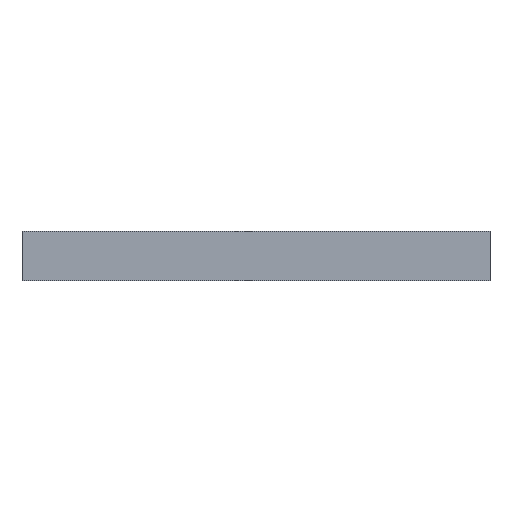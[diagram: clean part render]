
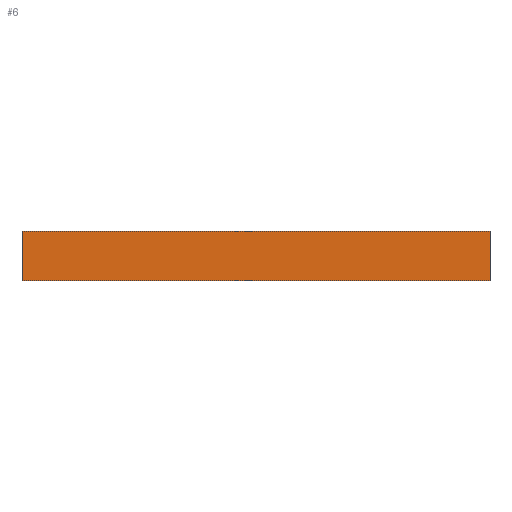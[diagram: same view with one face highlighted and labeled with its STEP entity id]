
A CAD part, top view. The second image highlights one B-rep face of the part: STEP entity #6.
In plain terms, the highlighted planar face has unit normal (0, 0, 1).
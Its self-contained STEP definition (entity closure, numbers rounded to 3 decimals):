
#6 = ADVANCED_FACE ( 'NONE', ( #93 ), #155, .F. ) ;
#30 = LINE ( 'NONE', #184, #31 ) ;
#31 = VECTOR ( 'NONE', #185, 1000. ) ;
#33 = ORIENTED_EDGE ( 'NONE', *, *, #123, .T. ) ;
#36 = ORIENTED_EDGE ( 'NONE', *, *, #119, .T. ) ;
#38 = LINE ( 'NONE', #175, #48 ) ;
#39 = LINE ( 'NONE', #179, #68 ) ;
#42 = EDGE_LOOP ( 'NONE', ( #33, #36, #59, #60 ) ) ;
#48 = VECTOR ( 'NONE', #178, 1000. ) ;
#59 = ORIENTED_EDGE ( 'NONE', *, *, #116, .T. ) ;
#60 = ORIENTED_EDGE ( 'NONE', *, *, #120, .T. ) ;
#66 = LINE ( 'NONE', #190, #67 ) ;
#67 = VECTOR ( 'NONE', #191, 1000. ) ;
#68 = VECTOR ( 'NONE', #183, 1000. ) ;
#93 = FACE_OUTER_BOUND ( 'NONE', #42, .T. ) ;
#107 = AXIS2_PLACEMENT_3D ( 'NONE', #158, #162, #163 ) ;
#116 = EDGE_CURVE ( 'NONE', #145, #143, #38, .T. ) ;
#119 = EDGE_CURVE ( 'NONE', #146, #145, #39, .T. ) ;
#120 = EDGE_CURVE ( 'NONE', #143, #147, #30, .T. ) ;
#123 = EDGE_CURVE ( 'NONE', #147, #146, #66, .T. ) ;
#143 = VERTEX_POINT ( 'NONE', #194 ) ;
#145 = VERTEX_POINT ( 'NONE', #199 ) ;
#146 = VERTEX_POINT ( 'NONE', #200 ) ;
#147 = VERTEX_POINT ( 'NONE', #182 ) ;
#155 = PLANE ( 'NONE',  #107 ) ;
#158 = CARTESIAN_POINT ( 'NONE',  ( -282.5, 30., 2. ) ) ;
#162 = DIRECTION ( 'NONE',  ( 0., 0., -1. ) ) ;
#163 = DIRECTION ( 'NONE',  ( -1., 0., 0. ) ) ;
#175 = CARTESIAN_POINT ( 'NONE',  ( 282.5, -30., 2. ) ) ;
#178 = DIRECTION ( 'NONE',  ( 0., 1., 0. ) ) ;
#179 = CARTESIAN_POINT ( 'NONE',  ( -282.5, -30., 2. ) ) ;
#182 = CARTESIAN_POINT ( 'NONE',  ( -282.5, 30., 2. ) ) ;
#183 = DIRECTION ( 'NONE',  ( 1., 0., 0. ) ) ;
#184 = CARTESIAN_POINT ( 'NONE',  ( -282.5, 30., 2. ) ) ;
#185 = DIRECTION ( 'NONE',  ( -1., 0., 0. ) ) ;
#190 = CARTESIAN_POINT ( 'NONE',  ( -282.5, -30., 2. ) ) ;
#191 = DIRECTION ( 'NONE',  ( 0., -1., 0. ) ) ;
#194 = CARTESIAN_POINT ( 'NONE',  ( 282.5, 30., 2. ) ) ;
#199 = CARTESIAN_POINT ( 'NONE',  ( 282.5, -30., 2. ) ) ;
#200 = CARTESIAN_POINT ( 'NONE',  ( -282.5, -30., 2. ) ) ;
